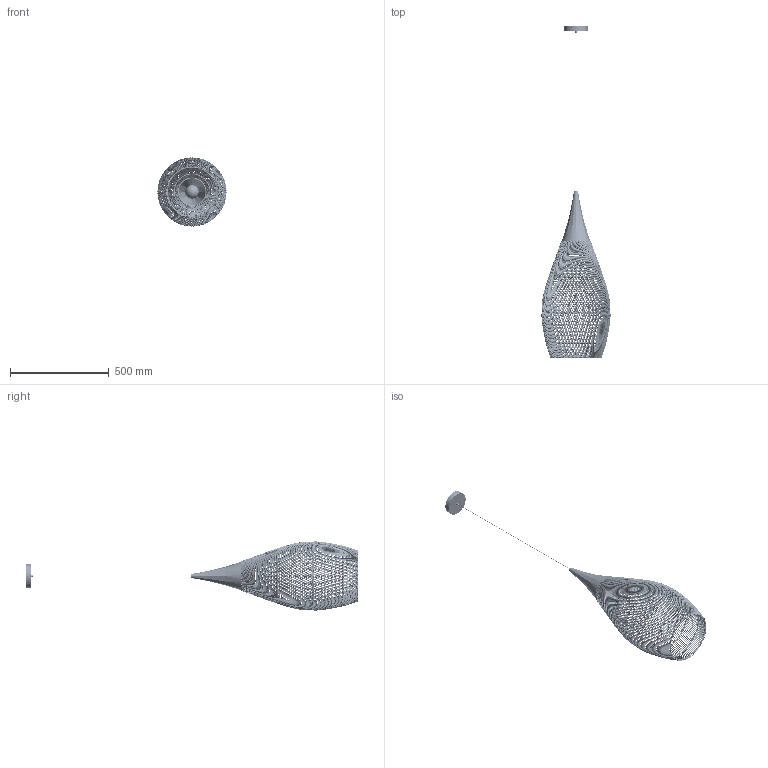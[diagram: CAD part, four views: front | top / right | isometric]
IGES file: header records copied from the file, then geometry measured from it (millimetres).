
Start section: SolidWorks IGES file using analytic representation for surfaces
Global section: file name: F:\燠隴矨\3D\2024-12堎\Braided Rattan Pendant Lamp-Model D-D35xH85cm .IGS,  1; native system: 5HSolidWorks 2022; preprocessor: SolidWorks 2022; author: MyPC; date: 241202.212308; units: millimetre
Bounding box: 350.56 x 1684.43 x 350.56 mm (x, y, z)
Surface area: 1298617.3 mm2 (no closed solid volume)
Topology: 0 solids, 0 shells, 559 faces, 9709 edges, 9709 vertices
Faces by surface type: bspline 537, revolution 22
